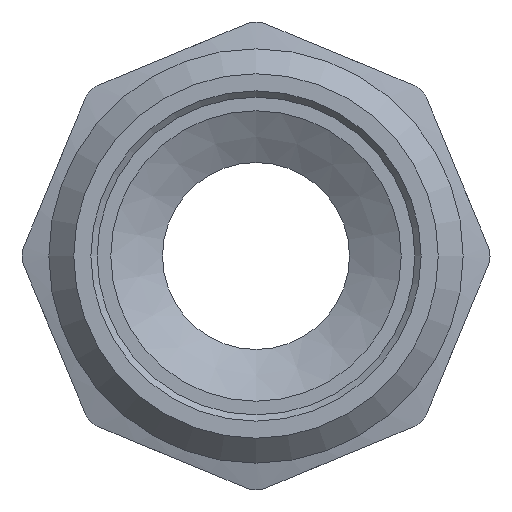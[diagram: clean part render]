
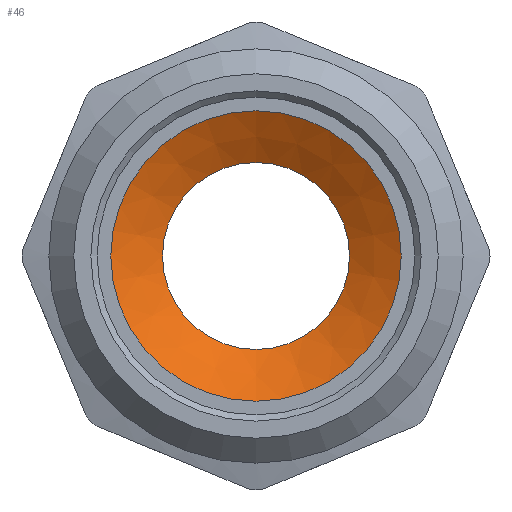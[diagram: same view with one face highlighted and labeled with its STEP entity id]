
A CAD part, front view. The second image highlights one B-rep face of the part: STEP entity #46.
In plain terms, the highlighted conical face has half-angle 60 degrees and reference radius 9.575 mm.
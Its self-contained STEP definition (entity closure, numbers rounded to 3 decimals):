
#46=ADVANCED_FACE('',(#136,#138),#140,.F.);
#136=FACE_OUTER_BOUND('',#137,.T.);
#137=EDGE_LOOP('',(#752));
#138=FACE_OUTER_BOUND('',#139,.T.);
#139=EDGE_LOOP('',(#753));
#140=CONICAL_SURFACE('',#141,9.575,1.047);
#141=AXIS2_PLACEMENT_3D('',#142,#143,#144);
#142=CARTESIAN_POINT('',(0.,-7.602,0.));
#143=DIRECTION('',(0.,-1.,0.));
#144=DIRECTION('',(0.,0.,1.));
#752=ORIENTED_EDGE('',*,*,#969,.F.);
#753=ORIENTED_EDGE('',*,*,#971,.F.);
#969=EDGE_CURVE('',#1080,#1080,#1081,.T.);
#971=EDGE_CURVE('',#1084,#1084,#1085,.F.);
#1080=VERTEX_POINT('',#1285);
#1081=CIRCLE('',#1286,7.5);
#1084=VERTEX_POINT('',#1295);
#1085=CIRCLE('',#1296,11.65);
#1285=CARTESIAN_POINT('',(0.,-6.404,7.5));
#1286=AXIS2_PLACEMENT_3D('',#1287,#1288,#1289);
#1287=CARTESIAN_POINT('',(0.,-6.404,0.));
#1288=DIRECTION('',(0.,-1.,0.));
#1289=DIRECTION('',(0.,0.,1.));
#1295=CARTESIAN_POINT('',(0.,-8.8,11.65));
#1296=AXIS2_PLACEMENT_3D('',#1297,#1298,#1299);
#1297=CARTESIAN_POINT('',(0.,-8.8,0.));
#1298=DIRECTION('',(0.,-1.,0.));
#1299=DIRECTION('',(0.,0.,1.));
